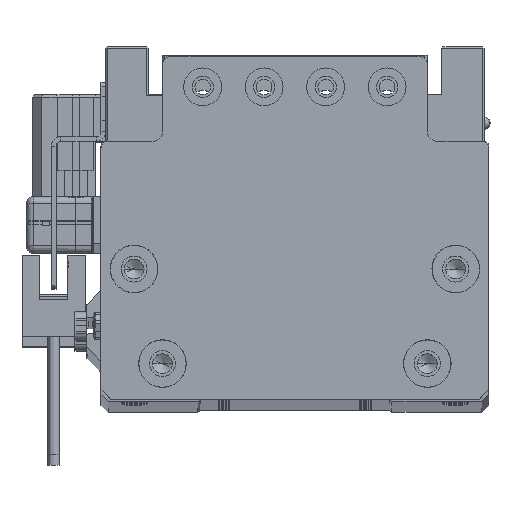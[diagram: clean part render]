
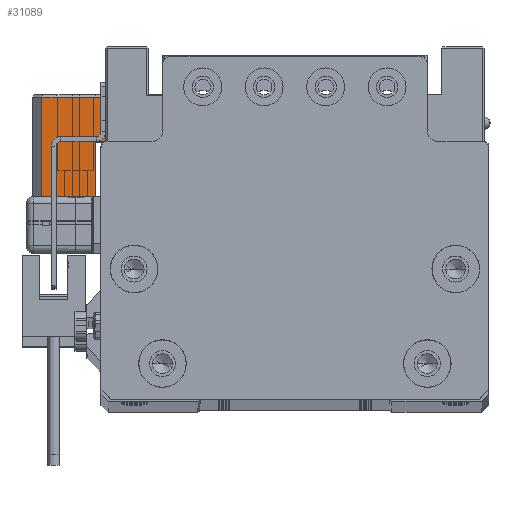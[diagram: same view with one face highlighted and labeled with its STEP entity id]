
A CAD part, top view. The second image highlights one B-rep face of the part: STEP entity #31089.
In plain terms, the highlighted planar face has unit normal (0, 0, 1) as drawn and (1, 0, 0) by its records, which use the part's own axes.
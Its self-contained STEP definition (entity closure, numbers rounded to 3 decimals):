
#2242 = LINE ( 'NONE', #40279, #48015 ) ;
#3097 = VERTEX_POINT ( 'NONE', #5899 ) ;
#3335 = CARTESIAN_POINT ( 'NONE',  ( 17., -10.75, -13.3 ) ) ;
#3793 = VECTOR ( 'NONE', #18669, 1000. ) ;
#5899 = CARTESIAN_POINT ( 'NONE',  ( 17., 10.25, -2. ) ) ;
#8679 = EDGE_CURVE ( 'NONE', #38381, #41619, #2242, .T. ) ;
#8793 = DIRECTION ( 'NONE',  ( 0., -1., 0. ) ) ;
#10258 = EDGE_CURVE ( 'NONE', #31528, #54005, #31613, .T. ) ;
#10568 = LINE ( 'NONE', #57617, #49303 ) ;
#11455 = CARTESIAN_POINT ( 'NONE',  ( 17., -10.75, -2. ) ) ;
#14924 = DIRECTION ( 'NONE',  ( 0., 0., 1. ) ) ;
#17755 = DIRECTION ( 'NONE',  ( 0., 0., -1. ) ) ;
#18152 = CARTESIAN_POINT ( 'NONE',  ( 17., -10.75, -2. ) ) ;
#18669 = DIRECTION ( 'NONE',  ( 0., 0., 1. ) ) ;
#19216 = AXIS2_PLACEMENT_3D ( 'NONE', #46739, #32399, #17755 ) ;
#21515 = CARTESIAN_POINT ( 'NONE',  ( 17., -10.75, -13.3 ) ) ;
#21999 = CARTESIAN_POINT ( 'NONE',  ( 17., 10.25, -15.5 ) ) ;
#22165 = DIRECTION ( 'NONE',  ( 0., 1., 0. ) ) ;
#22718 = CARTESIAN_POINT ( 'NONE',  ( 17., 10.25, -15.5 ) ) ;
#25161 = ORIENTED_EDGE ( 'NONE', *, *, #8679, .T. ) ;
#25874 = LINE ( 'NONE', #21515, #27008 ) ;
#26792 = FACE_OUTER_BOUND ( 'NONE', #58609, .T. ) ;
#27008 = VECTOR ( 'NONE', #48978, 1000. ) ;
#27387 = LINE ( 'NONE', #22718, #3793 ) ;
#27401 = CARTESIAN_POINT ( 'NONE',  ( 17., 0.75, -13.3 ) ) ;
#29453 = VECTOR ( 'NONE', #50920, 1000. ) ;
#31089 = ADVANCED_FACE ( 'NONE', ( #26792 ), #56074, .T. ) ;
#31528 = VERTEX_POINT ( 'NONE', #3335 ) ;
#31613 = LINE ( 'NONE', #32850, #29453 ) ;
#32053 = ORIENTED_EDGE ( 'NONE', *, *, #52082, .F. ) ;
#32399 = DIRECTION ( 'NONE',  ( 1., 0., 0. ) ) ;
#32850 = CARTESIAN_POINT ( 'NONE',  ( 17., -10.75, -15.5 ) ) ;
#34208 = VECTOR ( 'NONE', #8793, 1000. ) ;
#36995 = EDGE_CURVE ( 'NONE', #41619, #3097, #27387, .T. ) ;
#37505 = LINE ( 'NONE', #18152, #34208 ) ;
#38381 = VERTEX_POINT ( 'NONE', #49645 ) ;
#39912 = EDGE_CURVE ( 'NONE', #49598, #31528, #25874, .T. ) ;
#40279 = CARTESIAN_POINT ( 'NONE',  ( 17., -10.75, -15.5 ) ) ;
#41619 = VERTEX_POINT ( 'NONE', #21999 ) ;
#44854 = ORIENTED_EDGE ( 'NONE', *, *, #39912, .F. ) ;
#45121 = EDGE_CURVE ( 'NONE', #3097, #54005, #37505, .T. ) ;
#46739 = CARTESIAN_POINT ( 'NONE',  ( 17., -10.75, -15.5 ) ) ;
#47123 = ORIENTED_EDGE ( 'NONE', *, *, #36995, .T. ) ;
#48015 = VECTOR ( 'NONE', #22165, 1000. ) ;
#48978 = DIRECTION ( 'NONE',  ( 0., -1., 0. ) ) ;
#49303 = VECTOR ( 'NONE', #14924, 1000. ) ;
#49598 = VERTEX_POINT ( 'NONE', #27401 ) ;
#49645 = CARTESIAN_POINT ( 'NONE',  ( 17., 0.75, -15.5 ) ) ;
#50861 = ORIENTED_EDGE ( 'NONE', *, *, #45121, .T. ) ;
#50920 = DIRECTION ( 'NONE',  ( 0., 0., 1. ) ) ;
#52082 = EDGE_CURVE ( 'NONE', #38381, #49598, #10568, .T. ) ;
#54005 = VERTEX_POINT ( 'NONE', #11455 ) ;
#56074 = PLANE ( 'NONE',  #19216 ) ;
#57617 = CARTESIAN_POINT ( 'NONE',  ( 17., 0.75, -15.5 ) ) ;
#58609 = EDGE_LOOP ( 'NONE', ( #25161, #47123, #50861, #60455, #44854, #32053 ) ) ;
#60455 = ORIENTED_EDGE ( 'NONE', *, *, #10258, .F. ) ;
